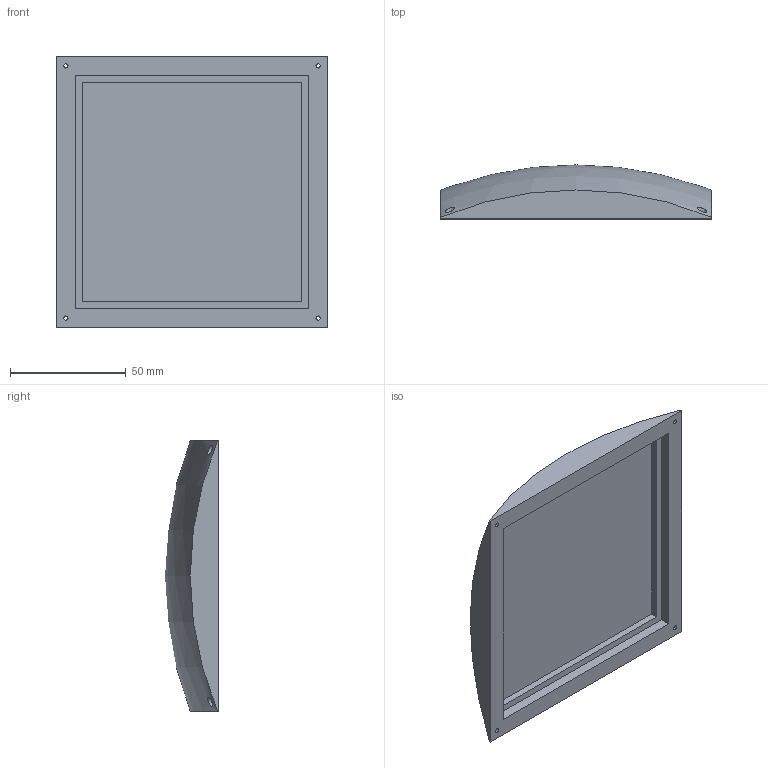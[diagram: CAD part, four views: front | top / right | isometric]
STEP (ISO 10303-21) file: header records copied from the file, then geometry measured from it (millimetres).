
FILE_DESCRIPTION(/* description */ (''),/* implementation_level */ '2;1');
FILE_NAME(/* name */ 'C:/Users/Rasika Jadhav/Downloads/Mission 2 FLoatSat/baseeee v7.step',/* time_stamp */ '2022-05-16T03:06:34+02:00',/* author */ (''),/* organization */ (''),/* preprocessor_version */ 'ST-DEVELOPER v18.1',/* originating_system */ 'Autodesk Translation Framework v10.14.0.1471',/* authorisation */ '');
FILE_SCHEMA (('AUTOMOTIVE_DESIGN { 1 0 10303 214 3 1 1 }'));
Length unit declared in the file: millimetre
Products named in the file (1): baseeee
Bounding box: 117 x 23.31 x 117 mm (x, y, z)
Volume: 146463.6 mm3; surface area: 35085.7 mm2
Topology: 1 solids, 1 shells, 28 faces, 64 edges, 44 vertices
Faces by surface type: plane 19, cylinder 8, sphere 1
Full cylindrical faces by diameter (mm): 1.8 x4, 4 x4
Entity records: 965 total; most frequent: CARTESIAN_POINT 273, DIRECTION 130, ORIENTED_EDGE 128, EDGE_CURVE 64, AXIS2_PLACEMENT_3D 45, VERTEX_POINT 44, EDGE_LOOP 42, LINE 40
